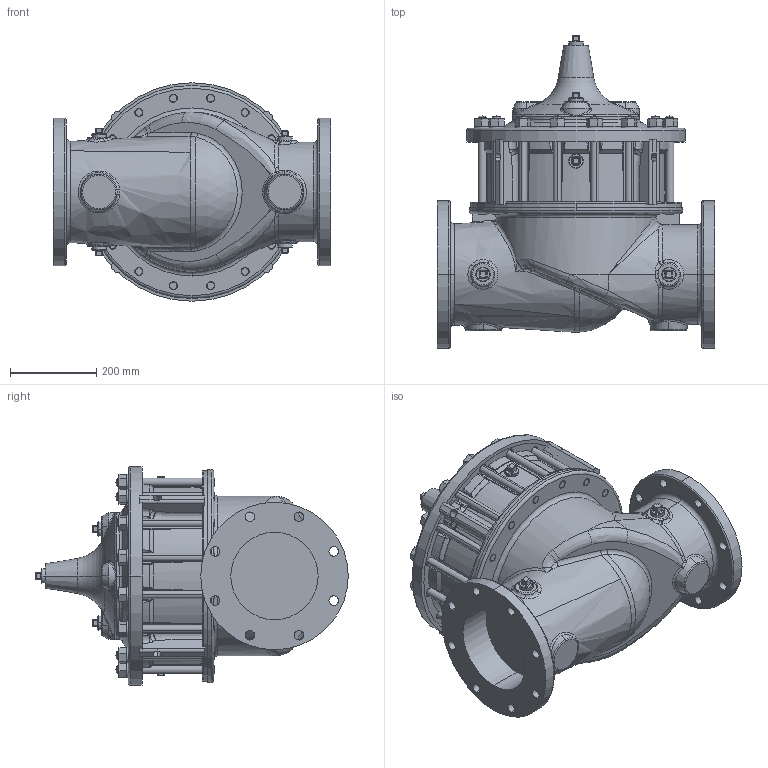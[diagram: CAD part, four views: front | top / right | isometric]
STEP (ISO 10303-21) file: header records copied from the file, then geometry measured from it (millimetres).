
FILE_DESCRIPTION (( 'STEP AP203' ), '1' );
FILE_NAME ('8in 100-02, 150AG.STEP', '2017-10-05T20:28:19', ( '' ), ( '' ), 'SwSTEP 2.0', 'SolidWorks 2017', '' );
FILE_SCHEMA (( 'CONFIG_CONTROL_DESIGN' ));
Length unit declared in the file: inch
Products named in the file (8): 1.0 NPT SQ HD PIPE PLUG (67660)_STEEL CAD PLT; 8in 100-02, 150AG; 8in Body HyGl150A STD_Default 150 FLAT FACE; 8in Body, PU_DUCTILE IRON; 8in Cover 100-01_DI OR ALUM 2 bosses drld; STUD .750-10 UNC (42883)_9  46859F; Hexnut .750-10 UNC (67811)_NUT, HEX HEAVY  67811-08D; WASHER, PLAIN FLAT FOR .750 SCREW (67753)_.750N   67753-04G
Assembly tree (60 placements, depth 2):
  8in 100-02, 150AG
    8in Body HyGl150A STD_Default 150 FLAT FACE
    8in Body, PU_DUCTILE IRON
    8in Cover 100-01_DI OR ALUM 2 bosses drld
    STUD .750-10 UNC (42883)_9  46859F  x16
    Hexnut .750-10 UNC (67811)_NUT, HEX HEAVY  67811-08D  x16
    WASHER, PLAIN FLAT FOR .750 SCREW (67753)_.750N   67753-04G  x16
    1.0 NPT SQ HD PIPE PLUG (67660)_STEEL CAD PLT  x9
Bounding box: 644.52 x 726.44 x 508 mm (x, y, z)
Volume: 73522882.9 mm3; surface area: 3177283.2 mm2
Topology: 61 solids, 61 shells, 1834 faces, 4321 edges, 2573 vertices
Faces by surface type: cylinder 541, cone 447, plane 319, bspline 311, torus 141, sphere 75
Entity records: 50294 total; most frequent: CARTESIAN_POINT 24536, ORIENTED_EDGE 5224, DIRECTION 4567, EDGE_CURVE 2612, AXIS2_PLACEMENT_3D 2028, VERTEX_POINT 1609, EDGE_LOOP 1239, CIRCLE 1231
